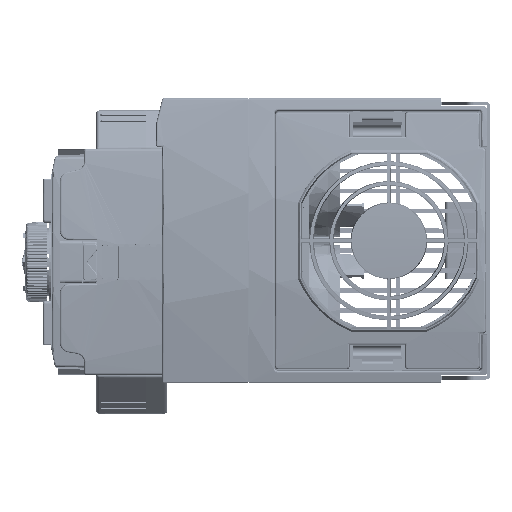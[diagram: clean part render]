
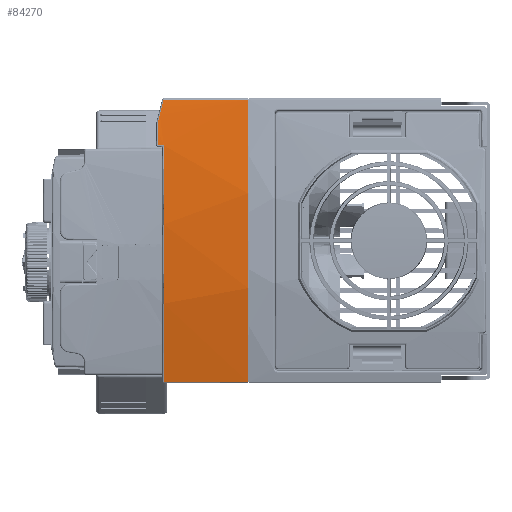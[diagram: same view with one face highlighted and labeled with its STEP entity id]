
A CAD part, left-side view. The second image highlights one B-rep face of the part: STEP entity #84270.
In plain terms, the highlighted conical face has half-angle 1 degrees and reference radius 218.468 mm.
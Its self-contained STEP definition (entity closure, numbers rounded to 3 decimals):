
#72798=CARTESIAN_POINT('',(46.105,0.,
-96.585));
#72800=CARTESIAN_POINT('',(0.,0.,117.225));
#72801=DIRECTION('',(0.,1.,0.));
#72802=DIRECTION('',(0.211,0.,-0.978));
#72803=AXIS2_PLACEMENT_3D('',#72800,#72801,#72802);
#73120=CARTESIAN_POINT('',(46.105,0.,
-96.585));
#73121=CARTESIAN_POINT('',(46.105,3.056,
-96.531));
#73122=CARTESIAN_POINT('',(46.106,9.17,
-96.422));
#73123=CARTESIAN_POINT('',(46.105,18.339,
-96.258));
#73124=CARTESIAN_POINT('',(46.106,24.452,
-96.149));
#73125=CARTESIAN_POINT('',(46.106,27.509,
-96.094));
#73127=CARTESIAN_POINT('',(-0.21,35.68,
130.54));
#73128=DIRECTION('',(-0.243,0.97,0.014));
#73129=DIRECTION('',(-0.166,-0.027,-0.986));
#73130=AXIS2_PLACEMENT_3D('',#73127,#73128,#73129);
#73132=CARTESIAN_POINT('',(-46.106,27.532,
-96.094));
#73133=CARTESIAN_POINT('',(-46.106,24.473,
-96.148));
#73134=CARTESIAN_POINT('',(-46.105,18.354,
-96.258));
#73135=CARTESIAN_POINT('',(-46.106,9.177,
-96.422));
#73136=CARTESIAN_POINT('',(-46.105,3.059,
-96.531));
#73137=CARTESIAN_POINT('',(-46.105,0.,
-96.585));
#74365=CARTESIAN_POINT('',(0.,26.293,
117.236));
#74366=DIRECTION('',(0.,-1.,-0.015));
#74367=DIRECTION('',(-0.176,0.014,-0.984));
#74368=AXIS2_PLACEMENT_3D('',#74365,#74366,#74367);
#74411=CARTESIAN_POINT('',(-31.149,29.459,
-98.751));
#74412=CARTESIAN_POINT('',(-31.138,28.808,
-98.764));
#74413=CARTESIAN_POINT('',(-31.126,28.16,
-98.777));
#74414=CARTESIAN_POINT('',(-31.115,27.509,
-98.79));
#74424=CARTESIAN_POINT('',(0.,27.509,117.225));
#74425=DIRECTION('',(0.,-1.,0.));
#74426=DIRECTION('',(-0.143,0.,-0.99));
#74427=AXIS2_PLACEMENT_3D('',#74424,#74425,#74426);
#81122=VERTEX_POINT('',#72798);
#81123=CARTESIAN_POINT('',(-46.105,0.,
-96.585));
#81124=VERTEX_POINT('',#81123);
#82742=CARTESIAN_POINT('',(-31.149,29.461,
-98.751));
#82743=VERTEX_POINT('',#82742);
#82745=CARTESIAN_POINT('',(-38.527,29.444,
-97.558));
#82747=VERTEX_POINT('',#82745);
#82752=CARTESIAN_POINT('',(-46.105,27.532,
-96.094));
#82753=VERTEX_POINT('',#82752);
#82754=VERTEX_POINT('',#73125);
#82755=CARTESIAN_POINT('',(-31.115,27.509,
-98.79));
#82756=VERTEX_POINT('',#82755);
#84252=CARTESIAN_POINT('',(0.,14.726,117.225));
#84253=DIRECTION('',(0.,-1.,0.));
#84254=DIRECTION('',(-1.,0.,0.));
#84255=AXIS2_PLACEMENT_3D('',#84252,#84253,#84254);
#84256=CONICAL_SURFACE('',#84255,218.468,1.);
#84258=ORIENTED_EDGE('',*,*,#84257,.T.);
#84260=ORIENTED_EDGE('',*,*,#84259,.F.);
#84262=ORIENTED_EDGE('',*,*,#84261,.F.);
#84264=ORIENTED_EDGE('',*,*,#84263,.F.);
#84265=ORIENTED_EDGE('',*,*,#84198,.T.);
#84266=ORIENTED_EDGE('',*,*,#84238,.T.);
#84267=ORIENTED_EDGE('',*,*,#83784,.F.);
#84268=EDGE_LOOP('',(#84258,#84260,#84262,#84264,#84265,#84266,#84267));
#84269=FACE_OUTER_BOUND('',#84268,.F.);
#72804=CIRCLE('',#72803,218.725);
#73126=B_SPLINE_CURVE_WITH_KNOTS('',3,(#73120,#73121,#73122,#73123,#73124,
#73125),.UNSPECIFIED.,.F.,.F.,(4,1,1,4),(0.,0.333,
0.667,1.),.UNSPECIFIED.);
#73131=CIRCLE('',#73130,231.378);
#73138=B_SPLINE_CURVE_WITH_KNOTS('',3,(#73132,#73133,#73134,#73135,#73136,
#73137),.UNSPECIFIED.,.F.,.F.,(4,1,1,4),(0.,0.333,
0.667,1.),.UNSPECIFIED.);
#74369=CIRCLE('',#74368,218.244);
#74415=B_SPLINE_CURVE_WITH_KNOTS('',3,(#74411,#74412,#74413,#74414),
.UNSPECIFIED.,.F.,.F.,(4,4),(0.,1.),.UNSPECIFIED.);
#74428=CIRCLE('',#74427,218.245);
#83784=EDGE_CURVE('',#81122,#81124,#72804,.T.);
#84198=EDGE_CURVE('',#82747,#82753,#73131,.T.);
#84238=EDGE_CURVE('',#82753,#81124,#73138,.T.);
#84257=EDGE_CURVE('',#81122,#82754,#73126,.T.);
#84259=EDGE_CURVE('',#82756,#82754,#74428,.T.);
#84261=EDGE_CURVE('',#82743,#82756,#74415,.T.);
#84263=EDGE_CURVE('',#82747,#82743,#74369,.T.);
#84270=ADVANCED_FACE('',(#84269),#84256,.T.);
